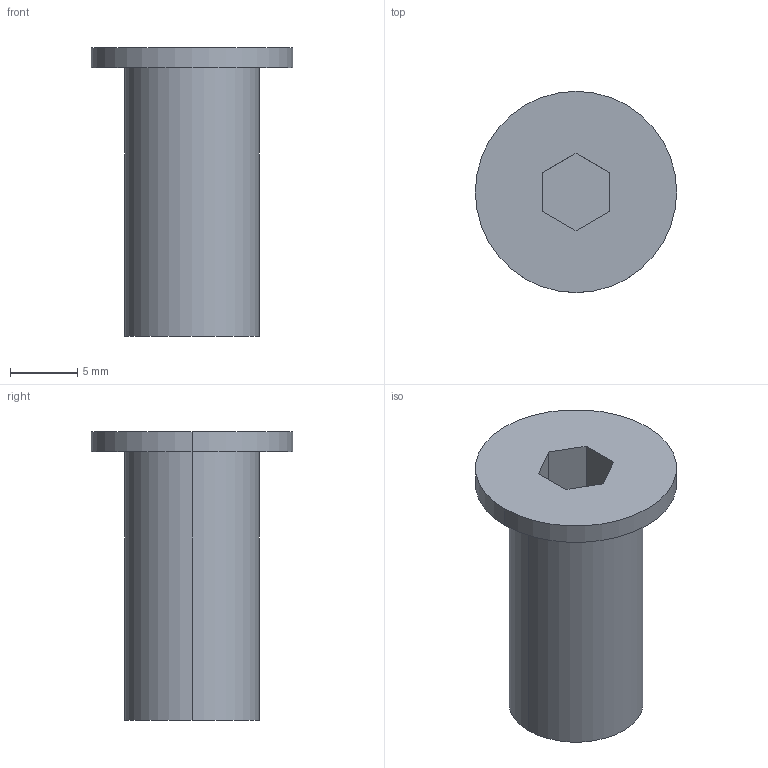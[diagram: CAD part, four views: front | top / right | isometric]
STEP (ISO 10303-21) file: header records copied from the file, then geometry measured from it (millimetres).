
FILE_DESCRIPTION (( 'STEP AP214' ), '1' );
FILE_NAME ('EXTRA_LOW_HEAD_CAP_BOLT_M10(2)(L=020).STEP', '2021-09-19T02:22:53', ( '' ), ( '' ), 'SwSTEP 2.0', 'SolidWorks 2018', '' );
FILE_SCHEMA (( 'AUTOMOTIVE_DESIGN' ));
Length unit declared in the file: millimetre
Products named in the file (1): EXTRA_LOW_HEAD_CAP_BOLT_M10(2)(L=020)
Bounding box: 15 x 15 x 21.5 mm (x, y, z)
Volume: 1706 mm3; surface area: 1156.4 mm2
Topology: 1 solids, 1 shells, 14 faces, 30 edges, 20 vertices
Faces by surface type: plane 10, cylinder 4
Entity records: 416 total; most frequent: DIRECTION 68, CARTESIAN_POINT 65, ORIENTED_EDGE 60, EDGE_CURVE 30, AXIS2_PLACEMENT_3D 23, LINE 22, VECTOR 22, VERTEX_POINT 20
